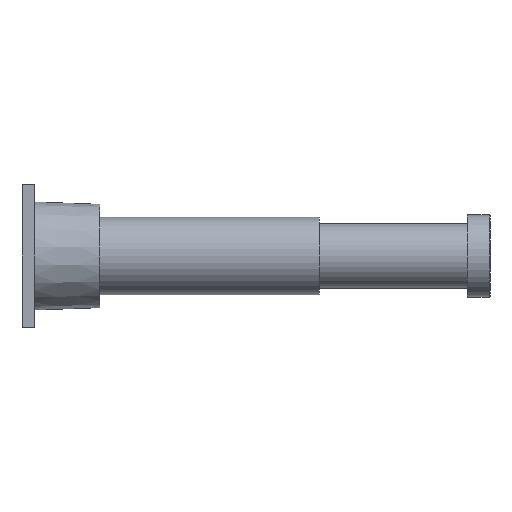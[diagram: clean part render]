
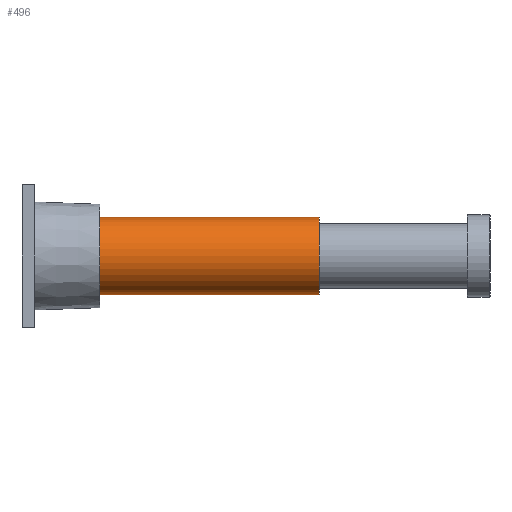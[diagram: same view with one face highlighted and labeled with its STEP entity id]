
A CAD part, front view. The second image highlights one B-rep face of the part: STEP entity #496.
In plain terms, the highlighted cylindrical face has radius 60 mm (diameter 120 mm), a partial arc.
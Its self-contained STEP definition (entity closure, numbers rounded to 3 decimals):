
#21 = VERTEX_POINT ( 'NONE', #1057 ) ;
#27 = LINE ( 'NONE', #946, #251 ) ;
#61 = EDGE_CURVE ( 'NONE', #21, #108, #297, .T. ) ;
#73 = CARTESIAN_POINT ( 'NONE',  ( 440., 0., 0. ) ) ;
#108 = VERTEX_POINT ( 'NONE', #823 ) ;
#168 = DIRECTION ( 'NONE',  ( -1., 0., 0. ) ) ;
#184 = DIRECTION ( 'NONE',  ( 0., 0., 1. ) ) ;
#230 = CIRCLE ( 'NONE', #541, 60. ) ;
#236 = CARTESIAN_POINT ( 'NONE',  ( 440., 0., 60. ) ) ;
#237 = ORIENTED_EDGE ( 'NONE', *, *, #1021, .T. ) ;
#251 = VECTOR ( 'NONE', #1141, 1000. ) ;
#297 = LINE ( 'NONE', #404, #337 ) ;
#316 = DIRECTION ( 'NONE',  ( -1., 0., 0. ) ) ;
#337 = VECTOR ( 'NONE', #316, 1000. ) ;
#402 = ORIENTED_EDGE ( 'NONE', *, *, #61, .F. ) ;
#404 = CARTESIAN_POINT ( 'NONE',  ( 440., 0., -60. ) ) ;
#430 = VERTEX_POINT ( 'NONE', #236 ) ;
#459 = CARTESIAN_POINT ( 'NONE',  ( 100., 0., 0. ) ) ;
#470 = DIRECTION ( 'NONE',  ( -1., 0., 0. ) ) ;
#496 = ADVANCED_FACE ( 'NONE', ( #661 ), #878, .T. ) ;
#507 = DIRECTION ( 'NONE',  ( 0., 0., 1. ) ) ;
#509 = DIRECTION ( 'NONE',  ( -1., 0., 0. ) ) ;
#518 = DIRECTION ( 'NONE',  ( 0., 0., -1. ) ) ;
#541 = AXIS2_PLACEMENT_3D ( 'NONE', #459, #470, #518 ) ;
#581 = ORIENTED_EDGE ( 'NONE', *, *, #707, .T. ) ;
#633 = AXIS2_PLACEMENT_3D ( 'NONE', #73, #168, #184 ) ;
#659 = EDGE_LOOP ( 'NONE', ( #402, #581, #237, #1062 ) ) ;
#661 = FACE_OUTER_BOUND ( 'NONE', #659, .T. ) ;
#695 = VERTEX_POINT ( 'NONE', #941 ) ;
#707 = EDGE_CURVE ( 'NONE', #21, #430, #1122, .T. ) ;
#727 = CARTESIAN_POINT ( 'NONE',  ( 440., 0., 0. ) ) ;
#733 = AXIS2_PLACEMENT_3D ( 'NONE', #727, #509, #507 ) ;
#779 = EDGE_CURVE ( 'NONE', #108, #695, #230, .T. ) ;
#823 = CARTESIAN_POINT ( 'NONE',  ( 100., 0., -60. ) ) ;
#878 = CYLINDRICAL_SURFACE ( 'NONE', #733, 60. ) ;
#941 = CARTESIAN_POINT ( 'NONE',  ( 100., 0., 60. ) ) ;
#946 = CARTESIAN_POINT ( 'NONE',  ( 440., 0., 60. ) ) ;
#1021 = EDGE_CURVE ( 'NONE', #430, #695, #27, .T. ) ;
#1057 = CARTESIAN_POINT ( 'NONE',  ( 440., 0., -60. ) ) ;
#1062 = ORIENTED_EDGE ( 'NONE', *, *, #779, .F. ) ;
#1122 = CIRCLE ( 'NONE', #633, 60. ) ;
#1141 = DIRECTION ( 'NONE',  ( -1., 0., 0. ) ) ;
